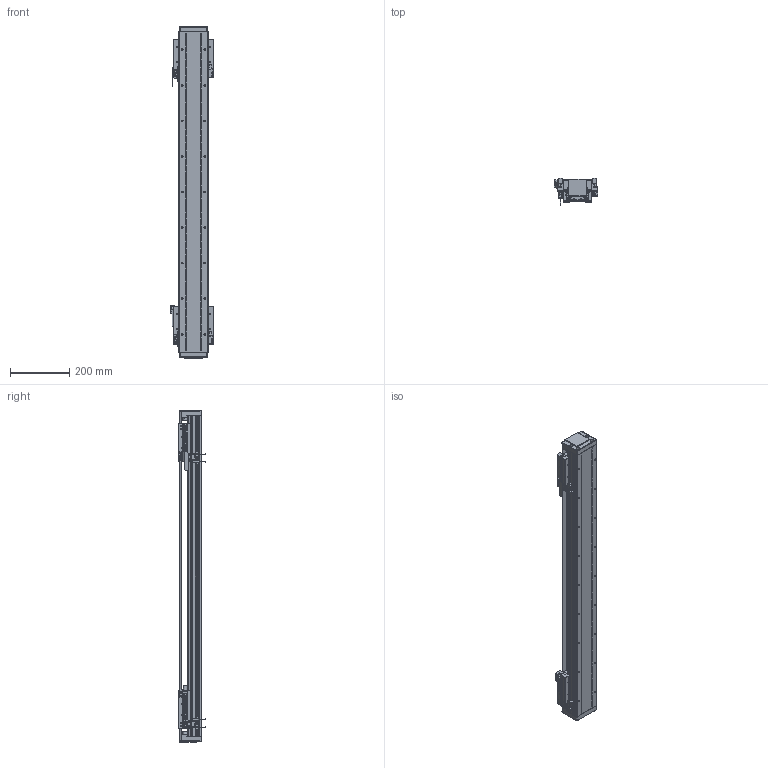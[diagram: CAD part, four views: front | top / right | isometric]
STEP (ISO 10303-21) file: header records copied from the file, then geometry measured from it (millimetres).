
FILE_DESCRIPTION (( 'STEP AP203' ), '1' );
FILE_NAME ('DA-B95-2-B15-T740-C010-0.2 直线电机.STEP', '2023-05-06T06:26:24', ( '微软用户' ), ( '微软中国' ), 'SwSTEP 2.0', 'SolidWorks 2019', '' );
FILE_SCHEMA (( 'CONFIG_CONTROL_DESIGN' ));
Length unit declared in the file: millimetre
Products named in the file (32): DA-B95-2-B15-T740-C010-0.2 眻盄萇儂; 复件 DA95-B15-YB-B-00 压板B^66245-BU95-V 滚珠滑台; LMDK-2-R001-V5-L02-C1-F00，0.2M 读数头^DA-A95-B15-T-C010-0.2-N 直线电机_DMA-010-0.2; 66245-BU95-V-00 珨极趙賑雄怢啣; 复件 66245-BU95-HT-V-01 滑动台板^66245-BU95-V-00 一体化滑动台板; 葩璃 BKMA01-W060-TRL^DA-A95-B15-T-C010-0.2-N 眻盄萇儂; 葩璃 DA95-B15-DP-A-00 菜えA^66245-BU95-V 幗紩賑怢; 复件 六角薄螺母 M3^DA-A95-B15-T-C010-0.2-N 直线电机_GB_FASTENER_NUT_STNAB M3-C; 66245-BU95-V 幗紩賑怢; 葩璃 BKM015-W060-C1-TP-DA-0.2^DA-A95-B15-T-C010-0.2-N 眻盄萇儂; 复件 DKW-KGZ-ZJ-00 中间光电开关支架^DA-A95-B15-T-C010-0.2-N 直线电机; 复件 DKW-HXJ-JY-00 缓冲橡胶^DA-A95-B15-T-C010-0.2-N 直线电机; 复件 DA95-MFP-01 密封片^66245-BU95-V 滚珠滑台; DA-A95-GYP-00 光电感应片^DA-A95-B15-T-C010-0.2-N 直线电机; ｸｴｼ DA95-Txxx-002-00 ｸﾇｰ蘓DA-A95-B15-T-C010-0.2-N ﾖｱﾏﾟｵ扈銈T+30; 葩璃 PM-Y45^DA-A95-B15-T-C010-0.2-N 眻盄萇儂; 葩璃 DA95-GT-T-00^IU-BU95-L 菁釱絳寢_DA95; 复件 DKW-GYP-ZJ-00 中间光电感应片^DA-A95-B15-T-C010-0.2-N 直线电机; DA95-DG-H-01^DA-A95-B15-T-C010-0.2-N 眻盄萇儂; DA95-HXJ-00 缓冲橡胶^DA-A95-B15-T-C010-0.2-N 直线电机; IU-BU95-L 菁釱絳寢; 复件 DA95-DB-00  挡板^66245-BU95-V 滚珠滑台; 复件 DA95-B15-YB-A-00 压板A^66245-BU95-V 滚珠滑台; 复件 DA95-DK-00 挡块^66245-BU95-V 滚珠滑台; 葩璃 DA95-B15-DP--B-00 菜えB^66245-BU95-V 幗紩賑怢; PM-T45 光电开关^DA-A95-B15-T-C010-0.2-N 直线电机; 复件 纯铜油杯 6x6mm^66245-BU95-V 滚珠滑台; IU-BU95-L-00 菁釱_L1080; B15 XD-U-02L ｴﾅﾕ､ｳﾟ^DA-A95-B15-T-C010-0.2-N ﾖｱﾏﾟｵ扈銈XD-U-02L; 复件 DA95-HK-GT-00 滑块钢轨^66245-BU95-V-00 一体化滑动台板
Assembly tree (76 placements, depth 4):
  DA-B95-2-B15-T740-C010-0.2 眻盄萇儂
    IU-BU95-L 菁釱絳寢
      IU-BU95-L-00 菁釱_L1080
      葩璃 DA95-GT-T-00^IU-BU95-L 菁釱絳寢_DA95  x2
    66245-BU95-V 幗紩賑怢
      66245-BU95-V-00 珨极趙賑雄怢啣
        复件 66245-BU95-HT-V-01 滑动台板^66245-BU95-V-00 一体化滑动台板
        复件 DA95-HK-GT-00 滑块钢轨^66245-BU95-V-00 一体化滑动台板  x2
      葩璃 DA95-B15-DP-A-00 菜えA^66245-BU95-V 幗紩賑怢
      复件 DA95-B15-YB-A-00 压板A^66245-BU95-V 滚珠滑台
      复件 DA95-B15-YB-B-00 压板B^66245-BU95-V 滚珠滑台
      复件 DA95-DB-00  挡板^66245-BU95-V 滚珠滑台  x4
      复件 DA95-DK-00 挡块^66245-BU95-V 滚珠滑台  x2
      复件 DA95-MFP-01 密封片^66245-BU95-V 滚珠滑台  x4
      复件 纯铜油杯 6x6mm^66245-BU95-V 滚珠滑台  x2
      葩璃 DA95-B15-DP--B-00 菜えB^66245-BU95-V 幗紩賑怢
    66245-BU95-V 幗紩賑怢
      66245-BU95-V-00 珨极趙賑雄怢啣
        复件 66245-BU95-HT-V-01 滑动台板^66245-BU95-V-00 一体化滑动台板
        复件 DA95-HK-GT-00 滑块钢轨^66245-BU95-V-00 一体化滑动台板  x2
      葩璃 DA95-B15-DP-A-00 菜えA^66245-BU95-V 幗紩賑怢
      复件 DA95-B15-YB-A-00 压板A^66245-BU95-V 滚珠滑台
      复件 DA95-B15-YB-B-00 压板B^66245-BU95-V 滚珠滑台
      复件 DA95-DB-00  挡板^66245-BU95-V 滚珠滑台  x4
      复件 DA95-DK-00 挡块^66245-BU95-V 滚珠滑台  x2
      复件 DA95-MFP-01 密封片^66245-BU95-V 滚珠滑台  x4
      复件 纯铜油杯 6x6mm^66245-BU95-V 滚珠滑台  x2
      葩璃 DA95-B15-DP--B-00 菜えB^66245-BU95-V 幗紩賑怢
    DA-A95-GYP-00 光电感应片^DA-A95-B15-T-C010-0.2-N 直线电机  x2
    LMDK-2-R001-V5-L02-C1-F00，0.2M 读数头^DA-A95-B15-T-C010-0.2-N 直线电机_DMA-010-0.2  x2
    复件 DKW-KGZ-ZJ-00 中间光电开关支架^DA-A95-B15-T-C010-0.2-N 直线电机
    葩璃 PM-Y45^DA-A95-B15-T-C010-0.2-N 眻盄萇儂
    复件 DKW-GYP-ZJ-00 中间光电感应片^DA-A95-B15-T-C010-0.2-N 直线电机
    葩璃 BKM015-W060-C1-TP-DA-0.2^DA-A95-B15-T-C010-0.2-N 眻盄萇儂  x2
    复件 DKW-HXJ-JY-00 缓冲橡胶^DA-A95-B15-T-C010-0.2-N 直线电机  x2
    PM-T45 光电开关^DA-A95-B15-T-C010-0.2-N 直线电机  x4
    B15 XD-U-02L ｴﾅﾕ､ｳﾟ^DA-A95-B15-T-C010-0.2-N ﾖｱﾏﾟｵ扈銈XD-U-02L
    DA95-DG-H-01^DA-A95-B15-T-C010-0.2-N 眻盄萇儂  x2
    ｸｴｼ DA95-Txxx-002-00 ｸﾇｰ蘓DA-A95-B15-T-C010-0.2-N ﾖｱﾏﾟｵ扈銈T+30
    DA95-HXJ-00 缓冲橡胶^DA-A95-B15-T-C010-0.2-N 直线电机  x4
    葩璃 BKMA01-W060-TRL^DA-A95-B15-T-C010-0.2-N 眻盄萇儂
    复件 六角薄螺母 M3^DA-A95-B15-T-C010-0.2-N 直线电机_GB_FASTENER_NUT_STNAB M3-C  x6
Bounding box: 145.4 x 90.2 x 1120 mm (x, y, z)
Volume: 4642724.6 mm3; surface area: 1418939.6 mm2
Topology: 71 solids, 89 shells, 4310 faces, 11200 edges, 6909 vertices
Faces by surface type: cylinder 1876, plane 1482, cone 544, bspline 344, torus 60, sphere 4
Entity records: 87321 total; most frequent: CARTESIAN_POINT 24416, ORIENTED_EDGE 12338, DIRECTION 12079, EDGE_CURVE 6169, AXIS2_PLACEMENT_3D 4523, VERTEX_POINT 3924, LINE 3033, VECTOR 3033
